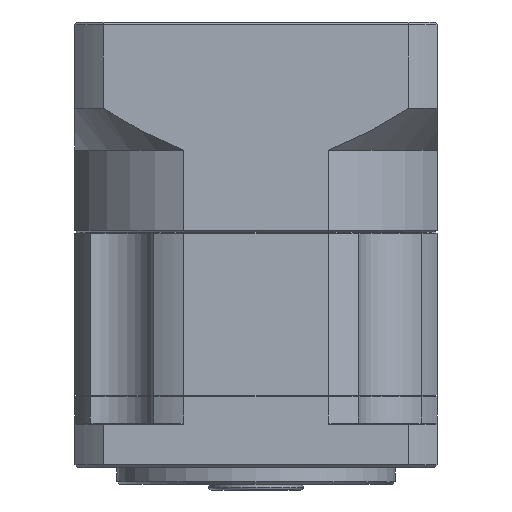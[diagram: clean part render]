
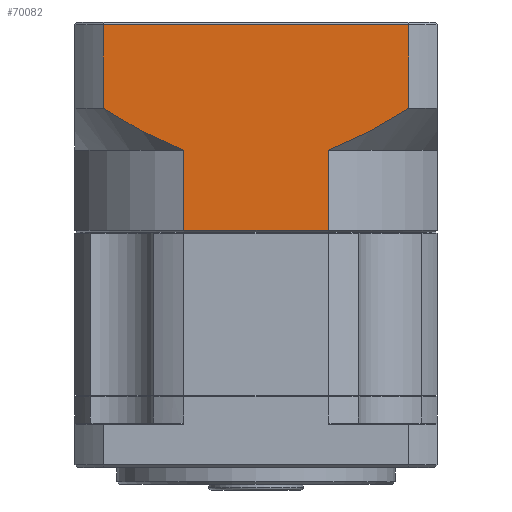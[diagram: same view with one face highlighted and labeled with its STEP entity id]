
A CAD part, front view. The second image highlights one B-rep face of the part: STEP entity #70082.
In plain terms, the highlighted planar face has unit normal (0, -1, 0).
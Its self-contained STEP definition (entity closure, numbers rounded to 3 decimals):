
#64 = CARTESIAN_POINT ( 'NONE',  ( -21.957, -20.937, 138.15 ) ) ;
#618 = ORIENTED_EDGE ( 'NONE', *, *, #49071, .F. ) ;
#1029 = LINE ( 'NONE', #34218, #40880 ) ;
#1584 = VERTEX_POINT ( 'NONE', #23692 ) ;
#2982 = DIRECTION ( 'NONE',  ( 1., 0., 0. ) ) ;
#3313 = VECTOR ( 'NONE', #36992, 1000. ) ;
#5487 = DIRECTION ( 'NONE',  ( 0., 1., 0. ) ) ;
#7740 = CARTESIAN_POINT ( 'NONE',  ( 32.816, -20.937, 138.15 ) ) ;
#10375 = CARTESIAN_POINT ( 'NONE',  ( 32.816, -20.937, 138.15 ) ) ;
#15720 = CARTESIAN_POINT ( 'NONE',  ( 31.677, -20.937, 137.416 ) ) ;
#15778 = VERTEX_POINT ( 'NONE', #99864 ) ;
#16020 = CARTESIAN_POINT ( 'NONE',  ( -21.957, -20.937, 153.15 ) ) ;
#16395 = EDGE_CURVE ( 'NONE', #63222, #80086, #62020, .T. ) ;
#16721 = EDGE_LOOP ( 'NONE', ( #46445, #42004, #60410, #49405, #618, #23962, #53264, #41277 ) ) ;
#19784 = VECTOR ( 'NONE', #71738, 1000. ) ;
#22178 = VECTOR ( 'NONE', #78197, 1000. ) ;
#22472 = CARTESIAN_POINT ( 'NONE',  ( -21.957, -20.937, 135.65 ) ) ;
#23692 = CARTESIAN_POINT ( 'NONE',  ( 18.42, -20.937, 116.239 ) ) ;
#23711 = CARTESIAN_POINT ( 'NONE',  ( -8.842, -20.937, 131.141 ) ) ;
#23962 = ORIENTED_EDGE ( 'NONE', *, *, #72940, .T. ) ;
#24264 = FACE_OUTER_BOUND ( 'NONE', #16721, .T. ) ;
#26935 = LINE ( 'NONE', #76739, #3313 ) ;
#31439 = B_SPLINE_CURVE_WITH_KNOTS ( 'NONE', 3,
 ( #47352, #55404, #23711, #79457, #31689, #87476, #39720, #95445, #47689, #64 ),
 .UNSPECIFIED., .F., .F.,
 ( 4, 2, 2, 2, 4 ),
 ( 0.101, 0.104, 0.106, 0.11, 0.118 ),
 .UNSPECIFIED. ) ;
#31689 = CARTESIAN_POINT ( 'NONE',  ( -10.727, -20.937, 131.94 ) ) ;
#31734 = CARTESIAN_POINT ( 'NONE',  ( 28.19, -20.937, 135.316 ) ) ;
#31937 = EDGE_CURVE ( 'NONE', #59735, #15778, #79230, .T. ) ;
#32590 = CARTESIAN_POINT ( 'NONE',  ( -7.561, -20.937, 116.239 ) ) ;
#34218 = CARTESIAN_POINT ( 'NONE',  ( -7.561, -20.937, 130.65 ) ) ;
#35392 = PLANE ( 'NONE',  #56216 ) ;
#36992 = DIRECTION ( 'NONE',  ( 0., 0., -1. ) ) ;
#39720 = CARTESIAN_POINT ( 'NONE',  ( -13.792, -20.937, 133.395 ) ) ;
#39758 = CARTESIAN_POINT ( 'NONE',  ( 23.41, -20.937, 132.737 ) ) ;
#40880 = VECTOR ( 'NONE', #98350, 1000. ) ;
#41277 = ORIENTED_EDGE ( 'NONE', *, *, #31937, .F. ) ;
#42004 = ORIENTED_EDGE ( 'NONE', *, *, #47500, .T. ) ;
#42652 = CARTESIAN_POINT ( 'NONE',  ( 37.93, -20.937, 116.239 ) ) ;
#44071 = VECTOR ( 'NONE', #59570, 1000. ) ;
#46445 = ORIENTED_EDGE ( 'NONE', *, *, #69130, .F. ) ;
#47323 = LINE ( 'NONE', #42652, #65985 ) ;
#47352 = CARTESIAN_POINT ( 'NONE',  ( -7.561, -20.937, 130.65 ) ) ;
#47500 = EDGE_CURVE ( 'NONE', #87301, #80086, #62120, .T. ) ;
#47689 = CARTESIAN_POINT ( 'NONE',  ( -19.688, -20.937, 136.688 ) ) ;
#47734 = CARTESIAN_POINT ( 'NONE',  ( 18.42, -20.937, 130.65 ) ) ;
#49071 = EDGE_CURVE ( 'NONE', #86478, #61258, #1029, .T. ) ;
#49405 = ORIENTED_EDGE ( 'NONE', *, *, #84208, .F. ) ;
#51750 = CARTESIAN_POINT ( 'NONE',  ( 37.93, -20.937, 153.65 ) ) ;
#53264 = ORIENTED_EDGE ( 'NONE', *, *, #63199, .F. ) ;
#55404 = CARTESIAN_POINT ( 'NONE',  ( -8.203, -20.937, 130.889 ) ) ;
#56216 = AXIS2_PLACEMENT_3D ( 'NONE', #51750, #5487, #61198 ) ;
#59424 = CARTESIAN_POINT ( 'NONE',  ( -21.957, -20.937, 153.15 ) ) ;
#59570 = DIRECTION ( 'NONE',  ( 0., 0., -1. ) ) ;
#59735 = VERTEX_POINT ( 'NONE', #10375 ) ;
#60410 = ORIENTED_EDGE ( 'NONE', *, *, #16395, .F. ) ;
#61198 = DIRECTION ( 'NONE',  ( -1., 0., 0. ) ) ;
#61258 = VERTEX_POINT ( 'NONE', #62094 ) ;
#62020 = LINE ( 'NONE', #22472, #22178 ) ;
#62094 = CARTESIAN_POINT ( 'NONE',  ( -7.561, -20.937, 130.65 ) ) ;
#62120 = LINE ( 'NONE', #16020, #19784 ) ;
#63199 = EDGE_CURVE ( 'NONE', #15778, #1584, #65181, .T. ) ;
#63222 = VERTEX_POINT ( 'NONE', #67527 ) ;
#65181 = LINE ( 'NONE', #66489, #44071 ) ;
#65985 = VECTOR ( 'NONE', #2982, 1000. ) ;
#66489 = CARTESIAN_POINT ( 'NONE',  ( 18.42, -20.937, 130.65 ) ) ;
#67527 = CARTESIAN_POINT ( 'NONE',  ( -21.957, -20.937, 138.15 ) ) ;
#69130 = EDGE_CURVE ( 'NONE', #87301, #59735, #26935, .T. ) ;
#70082 = ADVANCED_FACE ( 'NONE', ( #24264 ), #35392, .F. ) ;
#71738 = DIRECTION ( 'NONE',  ( -1., 0., 0. ) ) ;
#72940 = EDGE_CURVE ( 'NONE', #86478, #1584, #47323, .T. ) ;
#76739 = CARTESIAN_POINT ( 'NONE',  ( 32.816, -20.937, 135.65 ) ) ;
#78197 = DIRECTION ( 'NONE',  ( 0., 0., 1. ) ) ;
#79230 = B_SPLINE_CURVE_WITH_KNOTS ( 'NONE', 3,
 ( #7740, #15720, #79496, #31734, #87510, #39758, #95484, #47734 ),
 .UNSPECIFIED., .F., .F.,
 ( 4, 2, 2, 4 ),
 ( 0.059, 0.063, 0.067, 0.075 ),
 .UNSPECIFIED. ) ;
#79457 = CARTESIAN_POINT ( 'NONE',  ( -10.103, -20.937, 131.666 ) ) ;
#79496 = CARTESIAN_POINT ( 'NONE',  ( 30.526, -20.937, 136.701 ) ) ;
#80086 = VERTEX_POINT ( 'NONE', #59424 ) ;
#84208 = EDGE_CURVE ( 'NONE', #61258, #63222, #31439, .T. ) ;
#86478 = VERTEX_POINT ( 'NONE', #32590 ) ;
#87301 = VERTEX_POINT ( 'NONE', #95116 ) ;
#87476 = CARTESIAN_POINT ( 'NONE',  ( -12.58, -20.937, 132.79 ) ) ;
#87510 = CARTESIAN_POINT ( 'NONE',  ( 27.004, -20.937, 134.646 ) ) ;
#95116 = CARTESIAN_POINT ( 'NONE',  ( 32.816, -20.937, 153.15 ) ) ;
#95445 = CARTESIAN_POINT ( 'NONE',  ( -17.373, -20.937, 135.3 ) ) ;
#95484 = CARTESIAN_POINT ( 'NONE',  ( 20.959, -20.937, 131.592 ) ) ;
#98350 = DIRECTION ( 'NONE',  ( 0., 0., 1. ) ) ;
#99864 = CARTESIAN_POINT ( 'NONE',  ( 18.42, -20.937, 130.65 ) ) ;
